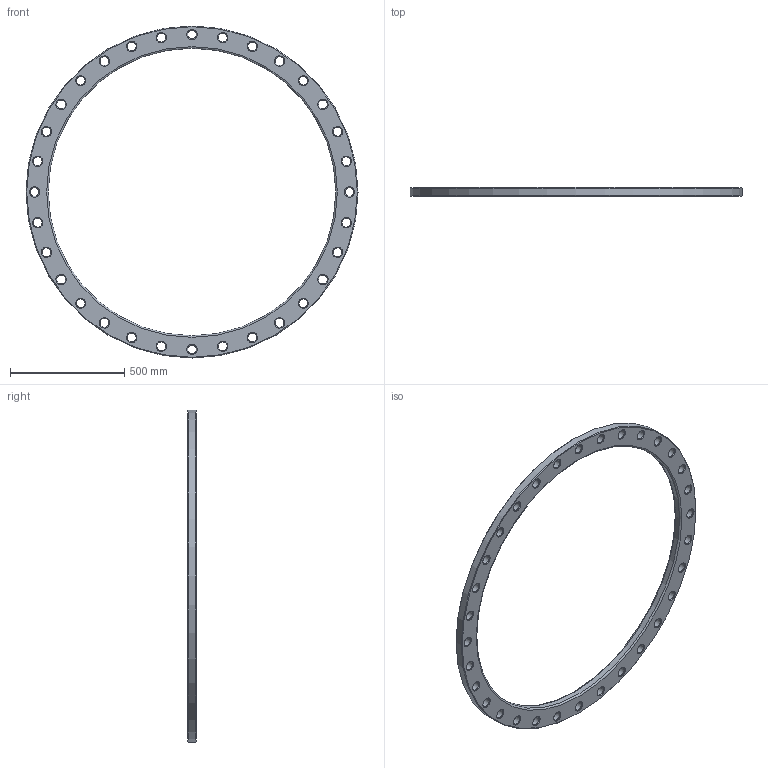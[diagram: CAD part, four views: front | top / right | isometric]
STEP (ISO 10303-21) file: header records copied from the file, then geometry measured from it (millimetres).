
FILE_DESCRIPTION(/* description */ ('Unknown'),/* implementation_level */ '2;1');
FILE_NAME(/* name */ 'FZ1200B',/* time_stamp */ '2021-03-15T11:13:02+01:00',/* author */ ('Unknown'),/* organization */ ('Unknown'),/* preprocessor_version */ 'ST-DEVELOPER v16.7',/* originating_system */ 'Solid Edge',/* authorisation */ 'Unknown');
FILE_SCHEMA (('AUTOMOTIVE_DESIGN {1 0 10303 214 3 1 1}'));
Length unit declared in the file: millimetre
Products named in the file (1): FZ1200B
Bounding box: 1455 x 38 x 1455 mm (x, y, z)
Volume: 14186501.6 mm3; surface area: 1175408.3 mm2
Topology: 1 solids, 1 shells, 104 faces, 334 edges, 232 vertices
Faces by surface type: cone 66, cylinder 34, plane 2, torus 2
Full cylindrical faces by diameter (mm): 39 x32, 1260 x1, 1455 x1
Entity records: 2566 total; most frequent: DIRECTION 482, CARTESIAN_POINT 377, ORIENTED_EDGE 272, EDGE_LOOP 272, FACE_BOUND 272, AXIS2_PLACEMENT_3D 241, EDGE_CURVE 136, VERTEX_POINT 136
